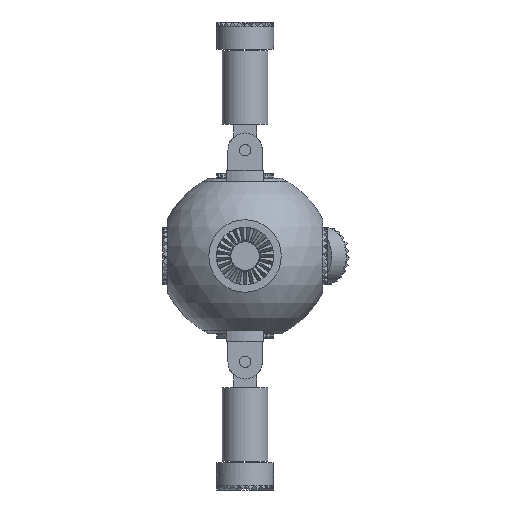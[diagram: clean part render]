
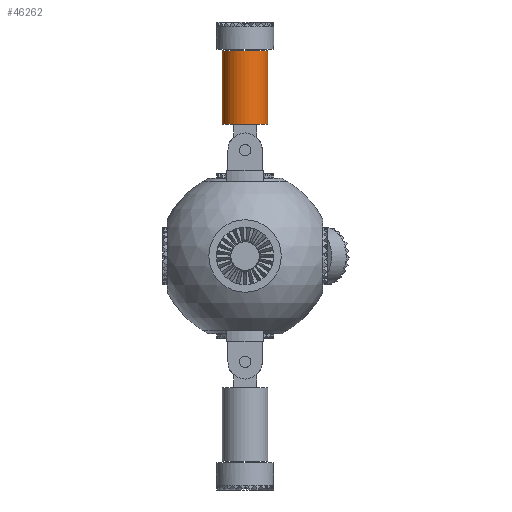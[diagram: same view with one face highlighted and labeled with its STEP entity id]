
A CAD part, left-side view. The second image highlights one B-rep face of the part: STEP entity #46262.
In plain terms, the highlighted cylindrical face has radius 4 mm (diameter 8 mm), a full revolution.
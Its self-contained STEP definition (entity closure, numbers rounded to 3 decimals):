
#46133 = PLANE('',#46134);
#46134 = AXIS2_PLACEMENT_3D('',#46135,#46136,#46137);
#46135 = CARTESIAN_POINT('',(0.,0.,23.)
  );
#46136 = DIRECTION('',(0.,0.,1.));
#46137 = DIRECTION('',(1.,0.,0.));
#46168 = EDGE_CURVE('',#46169,#46169,#46171,.T.);
#46169 = VERTEX_POINT('',#46170);
#46170 = CARTESIAN_POINT('',(4.,0.,23.));
#46171 = SURFACE_CURVE('',#46172,(#46177,#46184),.PCURVE_S1.);
#46172 = CIRCLE('',#46173,4.);
#46173 = AXIS2_PLACEMENT_3D('',#46174,#46175,#46176);
#46174 = CARTESIAN_POINT('',(0.,0.,23.));
#46175 = DIRECTION('',(0.,0.,1.));
#46176 = DIRECTION('',(1.,0.,0.));
#46177 = PCURVE('',#46133,#46178);
#46178 = DEFINITIONAL_REPRESENTATION('',(#46179),#46183);
#46179 = CIRCLE('',#46180,4.);
#46180 = AXIS2_PLACEMENT_2D('',#46181,#46182);
#46181 = CARTESIAN_POINT('',(0.,0.));
#46182 = DIRECTION('',(1.,0.));
#46183 = ( GEOMETRIC_REPRESENTATION_CONTEXT(2) 
PARAMETRIC_REPRESENTATION_CONTEXT() REPRESENTATION_CONTEXT('2D SPACE',''
  ) );
#46184 = PCURVE('',#46185,#46190);
#46185 = CYLINDRICAL_SURFACE('',#46186,4.);
#46186 = AXIS2_PLACEMENT_3D('',#46187,#46188,#46189);
#46187 = CARTESIAN_POINT('',(0.,0.,23.));
#46188 = DIRECTION('',(-0.,-0.,-1.));
#46189 = DIRECTION('',(1.,0.,0.));
#46190 = DEFINITIONAL_REPRESENTATION('',(#46191),#46195);
#46191 = LINE('',#46192,#46193);
#46192 = CARTESIAN_POINT('',(-0.,0.));
#46193 = VECTOR('',#46194,1.);
#46194 = DIRECTION('',(-1.,0.));
#46195 = ( GEOMETRIC_REPRESENTATION_CONTEXT(2) 
PARAMETRIC_REPRESENTATION_CONTEXT() REPRESENTATION_CONTEXT('2D SPACE',''
  ) );
#46262 = ADVANCED_FACE('',(#46263),#46185,.T.);
#46263 = FACE_BOUND('',#46264,.F.);
#46264 = EDGE_LOOP('',(#46265,#46288,#46315,#46316));
#46265 = ORIENTED_EDGE('',*,*,#46266,.T.);
#46266 = EDGE_CURVE('',#46169,#46267,#46269,.T.);
#46267 = VERTEX_POINT('',#46268);
#46268 = CARTESIAN_POINT('',(4.,0.,35.9));
#46269 = SEAM_CURVE('',#46270,(#46274,#46281),.PCURVE_S1.);
#46270 = LINE('',#46271,#46272);
#46271 = CARTESIAN_POINT('',(4.,0.,23.));
#46272 = VECTOR('',#46273,1.);
#46273 = DIRECTION('',(0.,0.,1.));
#46274 = PCURVE('',#46185,#46275);
#46275 = DEFINITIONAL_REPRESENTATION('',(#46276),#46280);
#46276 = LINE('',#46277,#46278);
#46277 = CARTESIAN_POINT('',(-0.,0.));
#46278 = VECTOR('',#46279,1.);
#46279 = DIRECTION('',(-0.,-1.));
#46280 = ( GEOMETRIC_REPRESENTATION_CONTEXT(2) 
PARAMETRIC_REPRESENTATION_CONTEXT() REPRESENTATION_CONTEXT('2D SPACE',''
  ) );
#46281 = PCURVE('',#46185,#46282);
#46282 = DEFINITIONAL_REPRESENTATION('',(#46283),#46287);
#46283 = LINE('',#46284,#46285);
#46284 = CARTESIAN_POINT('',(-6.283,0.));
#46285 = VECTOR('',#46286,1.);
#46286 = DIRECTION('',(-0.,-1.));
#46287 = ( GEOMETRIC_REPRESENTATION_CONTEXT(2) 
PARAMETRIC_REPRESENTATION_CONTEXT() REPRESENTATION_CONTEXT('2D SPACE',''
  ) );
#46288 = ORIENTED_EDGE('',*,*,#46289,.T.);
#46289 = EDGE_CURVE('',#46267,#46267,#46290,.T.);
#46290 = SURFACE_CURVE('',#46291,(#46296,#46303),.PCURVE_S1.);
#46291 = CIRCLE('',#46292,4.);
#46292 = AXIS2_PLACEMENT_3D('',#46293,#46294,#46295);
#46293 = CARTESIAN_POINT('',(0.,0.,35.9));
#46294 = DIRECTION('',(0.,0.,1.));
#46295 = DIRECTION('',(1.,0.,0.));
#46296 = PCURVE('',#46185,#46297);
#46297 = DEFINITIONAL_REPRESENTATION('',(#46298),#46302);
#46298 = LINE('',#46299,#46300);
#46299 = CARTESIAN_POINT('',(-0.,-12.9));
#46300 = VECTOR('',#46301,1.);
#46301 = DIRECTION('',(-1.,0.));
#46302 = ( GEOMETRIC_REPRESENTATION_CONTEXT(2) 
PARAMETRIC_REPRESENTATION_CONTEXT() REPRESENTATION_CONTEXT('2D SPACE',''
  ) );
#46303 = PCURVE('',#46304,#46309);
#46304 = PLANE('',#46305);
#46305 = AXIS2_PLACEMENT_3D('',#46306,#46307,#46308);
#46306 = CARTESIAN_POINT('',(0.,0.,35.9)
  );
#46307 = DIRECTION('',(0.,0.,1.));
#46308 = DIRECTION('',(1.,0.,0.));
#46309 = DEFINITIONAL_REPRESENTATION('',(#46310),#46314);
#46310 = CIRCLE('',#46311,4.);
#46311 = AXIS2_PLACEMENT_2D('',#46312,#46313);
#46312 = CARTESIAN_POINT('',(0.,0.));
#46313 = DIRECTION('',(1.,0.));
#46314 = ( GEOMETRIC_REPRESENTATION_CONTEXT(2) 
PARAMETRIC_REPRESENTATION_CONTEXT() REPRESENTATION_CONTEXT('2D SPACE',''
  ) );
#46315 = ORIENTED_EDGE('',*,*,#46266,.F.);
#46316 = ORIENTED_EDGE('',*,*,#46168,.F.);
